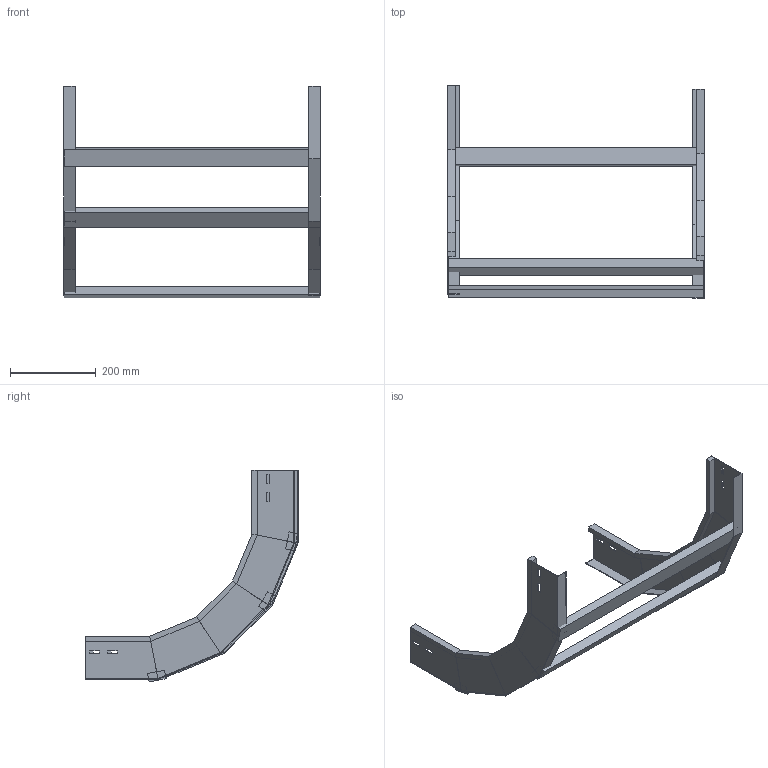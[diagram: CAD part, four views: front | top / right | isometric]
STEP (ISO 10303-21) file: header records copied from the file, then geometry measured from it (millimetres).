
FILE_DESCRIPTION (( 'STEP AP214' ), '1' );
FILE_NAME ('A2X30B3D600XX.step', '2025-04-02T09:01:20', ( '' ), ( '' ), 'SwSTEP 2.0', 'SolidWorks 2023', '' );
FILE_SCHEMA (( 'AUTOMOTIVE_DESIGN' ));
Length unit declared in the file: millimetre
Products named in the file (3): A2X30B3D600XX; LONGH.SALITA_90°_H100_R300; TRAVERSINO_600
Assembly tree (5 placements, depth 2):
  A2X30B3D600XX
    LONGH.SALITA_90°_H100_R300  x2
    TRAVERSINO_600  x3
Bounding box: 600 x 497.32 x 495.32 mm (x, y, z)
Volume: 2076586.2 mm3; surface area: 645253.5 mm2
Topology: 5 solids, 5 shells, 134 faces, 308 edges, 184 vertices
Faces by surface type: plane 134
Entity records: 1864 total; most frequent: CARTESIAN_POINT 308, ORIENTED_EDGE 296, DIRECTION 292, EDGE_CURVE 148, LINE 148, VECTOR 148, VERTEX_POINT 88, EDGE_LOOP 72
